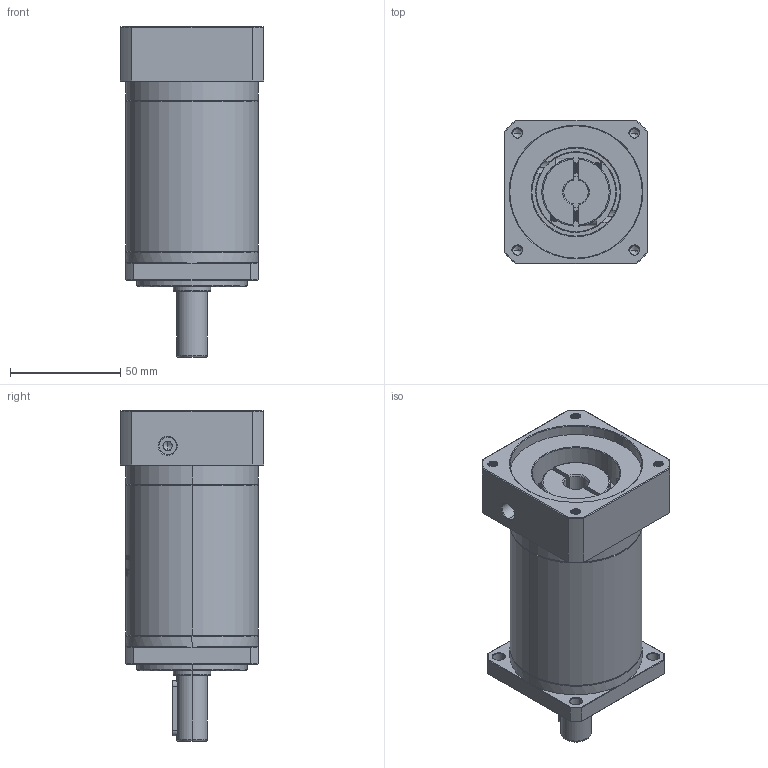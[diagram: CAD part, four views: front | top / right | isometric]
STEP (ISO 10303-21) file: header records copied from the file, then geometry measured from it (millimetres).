
FILE_DESCRIPTION (( 'STEP AP214' ), '1' );
FILE_NAME ('ZF060-D14-L3-P2-11-60-75-M5.step', '2023-08-16T04:24:29', ( '' ), ( '' ), 'SwSTEP 2.0', 'SolidWorks 2016', '' );
FILE_SCHEMA (( 'AUTOMOTIVE_DESIGN' ));
Length unit declared in the file: millimetre
Products named in the file (1): ZF060-D14-L3-P2-11-60-75-M5
Bounding box: 65 x 65 x 150 mm (x, y, z)
Volume: 333233.3 mm3; surface area: 53225.2 mm2
Topology: 6 solids, 6 shells, 1771 faces, 4794 edges, 3107 vertices
Faces by surface type: plane 799, cylinder 364, bspline 354, cone 234, torus 20
Entity records: 101553 total; most frequent: CARTESIAN_POINT 41788, ORIENTED_EDGE 9560, DIRECTION 6849, EDGE_CURVE 4780, VERTEX_POINT 3107, LINE 2435, VECTOR 2435, AXIS2_PLACEMENT_3D 2207
